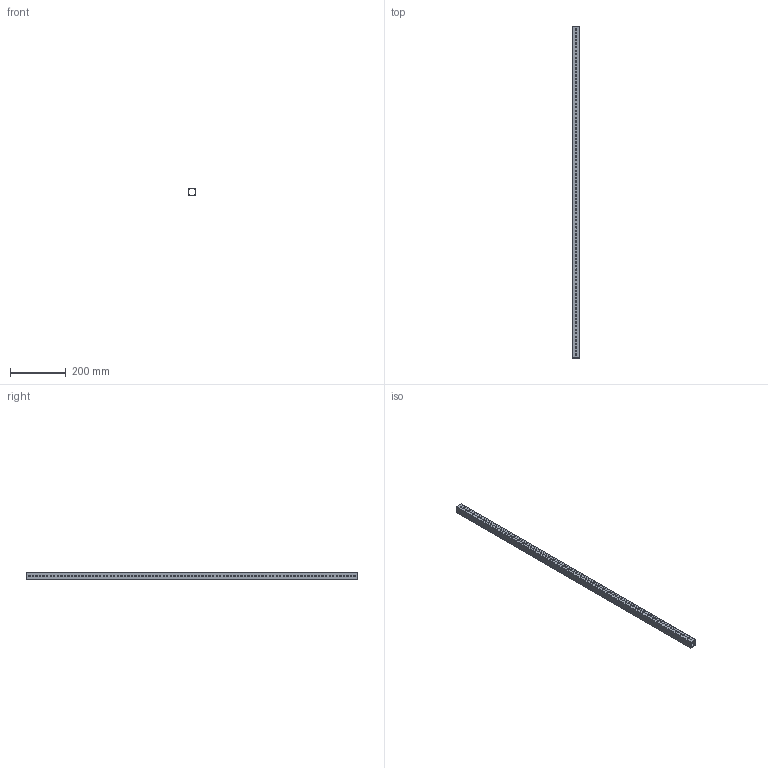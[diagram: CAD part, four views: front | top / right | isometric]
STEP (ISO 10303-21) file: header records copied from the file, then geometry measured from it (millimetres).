
FILE_DESCRIPTION(/* description */ (''),/* implementation_level */ '2;1');
FILE_NAME(/* name */ 'SR-TUBE-1X1-0.0625-GRID.step',/* time_stamp */ '2026-06-06T13:46:46-07:00',/* author */ (''),/* organization */ (''),/* preprocessor_version */ 'ST-DEVELOPER v20.1',/* originating_system */ 'Autodesk Translation Framework v15.8.0.0',/* authorisation */ '');
FILE_SCHEMA (('AUTOMOTIVE_DESIGN { 1 0 10303 214 3 1 1 }'));
Length unit declared in the file: inch
Products named in the file (2): SR-TUBE-1X1-0.0625-GRID; Component1
Assembly tree (1 placements, depth 2):
  SR-TUBE-1X1-0.0625-GRID
    Component1
Bounding box: 25.4 x 1193.8 x 25.4 mm (x, y, z)
Volume: 175203.3 mm3; surface area: 217324.1 mm2
Topology: 1 solids, 1 shells, 386 faces, 1152 edges, 768 vertices
Faces by surface type: cylinder 376, plane 10
Full cylindrical faces by diameter (mm): 5 x372
Entity records: 14995 total; most frequent: DIRECTION 2682, CARTESIAN_POINT 2309, ORIENTED_EDGE 2304, EDGE_CURVE 1152, AXIS2_PLACEMENT_3D 1141, EDGE_LOOP 1132, VERTEX_POINT 768, CIRCLE 752
